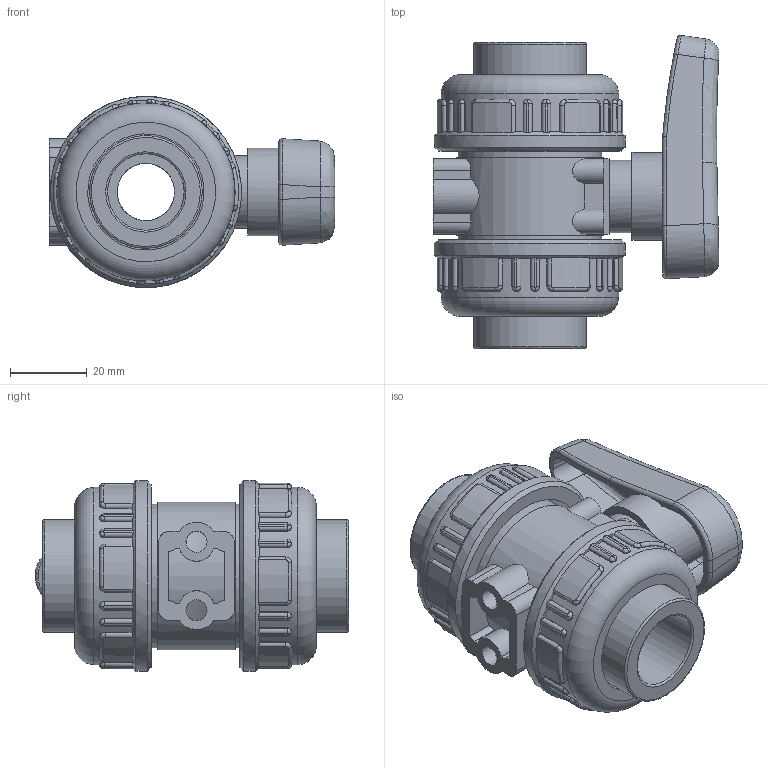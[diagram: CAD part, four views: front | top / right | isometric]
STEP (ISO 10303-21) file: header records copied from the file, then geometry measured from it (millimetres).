
FILE_DESCRIPTION(/* description */ (''),/* implementation_level */ '2;1');
FILE_NAME(/* name */ 'C:\Users\POLYPIPE\Desktop\DATASET INVENTOR\LIBRERIA EFFAST\3D_VALVOLE\3D_VALVOLE A SFERA\3D_BK1\3D_BDRBK1D\3D_BDRBK1D0200.stp',/* time_stamp */ '2018-01-23T15:24:15+01:00',/* author */ ('POLYPIPE'),/* organization */ (''),/* preprocessor_version */ 'ST-DEVELOPER v16.1',/* originating_system */ 'Autodesk Inventor 2016',/* authorisation */ '');
FILE_SCHEMA (('CONFIG_CONTROL_DESIGN'));
Length unit declared in the file: centimetre
Products named in the file (1): 3D_BDRBK1D0200
Bounding box: 74.72 x 81.86 x 49.96 mm (x, y, z)
Volume: 98395 mm3; surface area: 41997.5 mm2
Topology: 3 solids, 3 shells, 572 faces, 1478 edges, 935 vertices
Faces by surface type: plane 194, cylinder 192, bspline 162, torus 20, cone 4
Full cylindrical faces by diameter (mm): 2.5 x4, 5.5 x2, 12 x1, 15 x3, 19 x1, 20 x2, 23 x1, 29.5 x2, 30.4 x2, 35.4 x2, 37.5 x2, 38.6 x1, 40.4 x2, 46.5 x2, 50 x2
Entity records: 62182 total; most frequent: CARTESIAN_POINT 48649, ORIENTED_EDGE 2836, DIRECTION 2401, EDGE_CURVE 1418, VERTEX_POINT 917, AXIS2_PLACEMENT_3D 912, EDGE_LOOP 645, LINE 577
